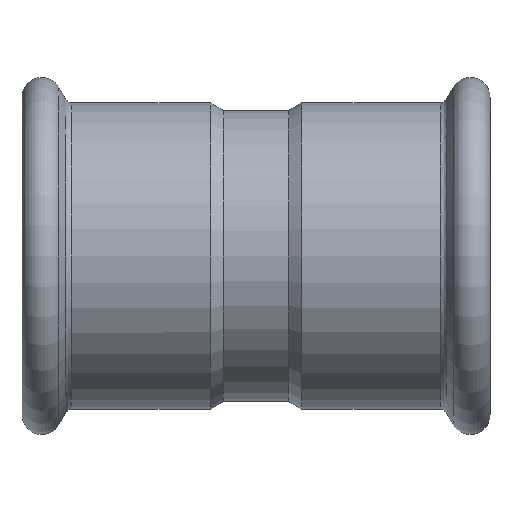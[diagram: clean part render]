
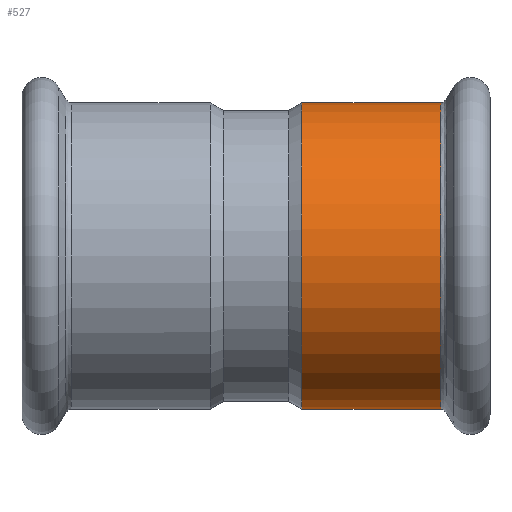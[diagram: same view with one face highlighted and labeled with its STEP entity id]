
A CAD part, front view. The second image highlights one B-rep face of the part: STEP entity #527.
In plain terms, the highlighted cylindrical face has radius 46.75 mm (diameter 93.5 mm), a full revolution.
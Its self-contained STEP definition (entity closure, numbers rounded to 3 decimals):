
#485=CARTESIAN_POINT('',(56.378,46.75,0.0));
#486=VERTEX_POINT('',#485);
#487=CARTESIAN_POINT('',(56.378,0.,0.0));
#488=DIRECTION('',(1.0,0.0,0.0));
#489=DIRECTION('',(0.0,-1.0,0.0));
#490=AXIS2_PLACEMENT_3D('',#487,#488,#489);
#491=CIRCLE('',#490,46.75);
#492=EDGE_CURVE('',#486,#486,#491,.T.);
#508=CARTESIAN_POINT('',(35.748,0.,0.0));
#509=DIRECTION('',(1.0,0.,0.0));
#510=DIRECTION('',(0.0,1.0,0.0));
#511=AXIS2_PLACEMENT_3D('',#508,#509,#510);
#512=CYLINDRICAL_SURFACE('',#511,46.75);
#513=CARTESIAN_POINT('',(13.964,46.75,0.0));
#514=VERTEX_POINT('',#513);
#515=CARTESIAN_POINT('',(13.964,0.,0.0));
#516=DIRECTION('',(1.0,0.0,0.0));
#517=DIRECTION('',(0.0,1.0,0.0));
#518=AXIS2_PLACEMENT_3D('',#515,#516,#517);
#519=CIRCLE('',#518,46.75);
#520=EDGE_CURVE('',#514,#514,#519,.T.);
#521=ORIENTED_EDGE('',*,*,#520,.T.);
#522=EDGE_LOOP('',(#521));
#523=FACE_OUTER_BOUND('',#522,.T.);
#524=ORIENTED_EDGE('',*,*,#492,.F.);
#525=EDGE_LOOP('',(#524));
#526=FACE_BOUND('',#525,.T.);
#527=ADVANCED_FACE('',(#523,#526),#512,.T.);
